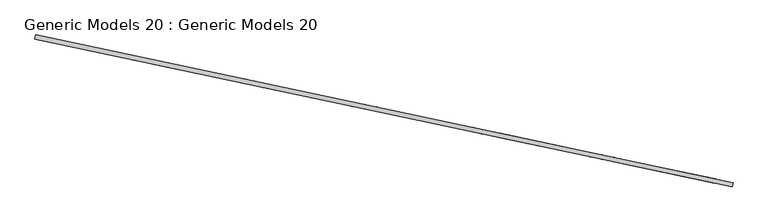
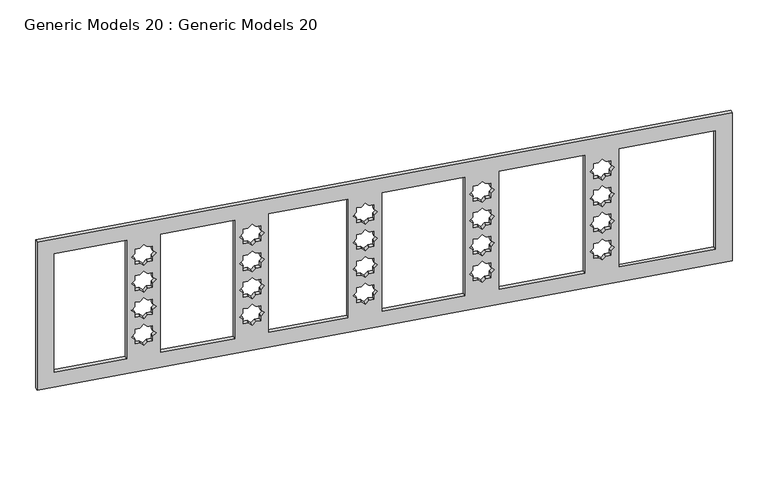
"""IFC4 building model written with IfcOpenShell, lengths in millimetres: proxy geometry, Generic Models 20 : Generic Models 20."""

from ifc_helpers import new_model, si_unit, frame, origin, place, context, project, spatial, polyline, outline, extrude, source, transform, mapped, element, save


def generic_models_20_generic_models_20_587b93e4(model_context):
    return source(origin(), model_context, "Body", "SweptSolid", [
        extrude(outline(polyline([(-1800.0, 0.0), (200.0, 0.0), (200.0, -8100.0), (-1800.0, -8100.0), (-1800.0, 0.0)]), holes=[polyline([(0.0, -1317.9363118), (0.0, -200.0), (-1600.0, -200.0), (-1600.0, -1317.9363118), (0.0, -1317.9363118)]), polyline([(-1600.0, -7900.0), (0.0, -7900.0), (0.0, -7057.9363118), (-1600.0, -7057.9363118), (-1600.0, -7900.0)]), polyline([(-1600.0, -1717.9363118), (-1600.0, -2717.9363119), (0.0, -2717.9363119), (0.0, -1717.9363118), (-1600.0, -1717.9363118)]), polyline([(-1600.0, -3117.9363118), (-1600.0, -4077.9363119), (0.0, -4077.9363119), (0.0, -3117.9363118), (-1600.0, -3117.9363118)]), polyline([(-1600.0, -4477.9363118), (-1600.0, -5397.9363118), (0.0, -5397.9363118), (0.0, -4477.9363118), (-1600.0, -4477.9363118)]), polyline([(-1600.0, -5797.9363118), (-1600.0, -6657.9363118), (0.0, -6657.9363118), (0.0, -5797.9363118), (-1600.0, -5797.9363118)]), polyline([(-140.462545, -1557.1139215), (-99.0411887, -1515.6925653), (-140.462545, -1474.2712091), (-140.462545, -1415.6925653), (-199.0411887, -1415.6925653), (-240.462545, -1374.2712091), (-281.8839012, -1415.6925653), (-340.462545, -1415.6925653), (-340.462545, -1474.2712091), (-381.8839012, -1515.6925653), (-340.462545, -1557.1139215), (-340.462545, -1615.6925653), (-281.8839012, -1615.6925653), (-240.462545, -1657.1139215), (-199.0411887, -1615.6925653), (-140.462545, -1615.6925653), (-140.462545, -1557.1139215)]), polyline([(-500.7866656, -1557.1139215), (-459.3653094, -1515.6925653), (-500.7866656, -1474.2712091), (-500.7866656, -1415.6925653), (-559.3653094, -1415.6925653), (-600.7866656, -1374.2712091), (-642.2080219, -1415.6925653), (-700.7866656, -1415.6925653), (-700.7866656, -1474.2712091), (-742.2080219, -1515.6925653), (-700.7866656, -1557.1139215), (-700.7866656, -1615.6925653), (-642.2080219, -1615.6925653), (-600.7866656, -1657.1139215), (-559.3653094, -1615.6925653), (-500.7866656, -1615.6925653), (-500.7866656, -1557.1139215)]), polyline([(-860.4268203, -1557.1139215), (-819.0054641, -1515.6925653), (-860.4268203, -1474.2712091), (-860.4268203, -1415.6925653), (-919.0054641, -1415.6925653), (-960.4268203, -1374.2712091), (-1001.8481765, -1415.6925653), (-1060.4268203, -1415.6925653), (-1060.4268203, -1474.2712091), (-1101.8481765, -1515.6925653), (-1060.4268203, -1557.1139215), (-1060.4268203, -1615.6925653), (-1001.8481765, -1615.6925653), (-960.4268203, -1657.1139215), (-919.0054641, -1615.6925653), (-860.4268203, -1615.6925653), (-860.4268203, -1557.1139215)]), polyline([(-1220.750941, -1557.1139215), (-1179.3295847, -1515.6925653), (-1220.750941, -1474.2712091), (-1220.750941, -1415.6925653), (-1279.3295847, -1415.6925653), (-1320.750941, -1374.2712091), (-1362.1722972, -1415.6925653), (-1420.750941, -1415.6925653), (-1420.750941, -1474.2712091), (-1462.1722972, -1515.6925653), (-1420.750941, -1557.1139215), (-1420.750941, -1615.6925653), (-1362.1722972, -1615.6925653), (-1320.750941, -1657.1139215), (-1279.3295847, -1615.6925653), (-1220.750941, -1615.6925653), (-1220.750941, -1557.1139215)]), polyline([(-140.462545, -2957.1139216), (-99.0411887, -2915.6925653), (-140.462545, -2874.2712091), (-140.462545, -2815.6925654), (-199.0411887, -2815.6925654), (-240.462545, -2774.2712091), (-281.8839012, -2815.6925654), (-340.462545, -2815.6925654), (-340.462545, -2874.2712091), (-381.8839012, -2915.6925653), (-340.462545, -2957.1139216), (-340.462545, -3015.6925653), (-281.8839012, -3015.6925653), (-240.462545, -3057.1139215), (-199.0411887, -3015.6925653), (-140.462545, -3015.6925653), (-140.462545, -2957.1139216)]), polyline([(-500.7866656, -2957.1139216), (-459.3653094, -2915.6925653), (-500.7866656, -2874.2712091), (-500.7866656, -2815.6925654), (-559.3653094, -2815.6925654), (-600.7866656, -2774.2712091), (-642.2080219, -2815.6925654), (-700.7866656, -2815.6925654), (-700.7866656, -2874.2712091), (-742.2080219, -2915.6925653), (-700.7866656, -2957.1139216), (-700.7866656, -3015.6925653), (-642.2080219, -3015.6925653), (-600.7866656, -3057.1139215), (-559.3653094, -3015.6925653), (-500.7866656, -3015.6925653), (-500.7866656, -2957.1139216)]), polyline([(-860.4268203, -2957.1139216), (-819.0054641, -2915.6925653), (-860.4268203, -2874.2712091), (-860.4268203, -2815.6925654), (-919.0054641, -2815.6925654), (-960.4268203, -2774.2712091), (-1001.8481765, -2815.6925654), (-1060.4268203, -2815.6925654), (-1060.4268203, -2874.2712091), (-1101.8481765, -2915.6925653), (-1060.4268203, -2957.1139216), (-1060.4268203, -3015.6925653), (-1001.8481765, -3015.6925653), (-960.4268203, -3057.1139215), (-919.0054641, -3015.6925653), (-860.4268203, -3015.6925653), (-860.4268203, -2957.1139216)]), polyline([(-1220.750941, -2957.1139216), (-1179.3295847, -2915.6925653), (-1220.750941, -2874.2712091), (-1220.750941, -2815.6925654), (-1279.3295847, -2815.6925654), (-1320.750941, -2774.2712091), (-1362.1722972, -2815.6925654), (-1420.750941, -2815.6925654), (-1420.750941, -2874.2712091), (-1462.1722972, -2915.6925653), (-1420.750941, -2957.1139216), (-1420.750941, -3015.6925653), (-1362.1722972, -3015.6925653), (-1320.750941, -3057.1139215), (-1279.3295847, -3015.6925653), (-1220.750941, -3015.6925653), (-1220.750941, -2957.1139216)]), polyline([(-140.462545, -4317.1139216), (-99.0411887, -4275.6925653), (-140.462545, -4234.2712091), (-140.462545, -4175.6925654), (-199.0411887, -4175.6925654), (-240.462545, -4134.271209), (-281.8839012, -4175.6925654), (-340.462545, -4175.6925654), (-340.462545, -4234.2712091), (-381.8839012, -4275.6925653), (-340.462545, -4317.1139216), (-340.462545, -4375.6925653), (-281.8839012, -4375.6925653), (-240.462545, -4417.1139215), (-199.0411887, -4375.6925653), (-140.462545, -4375.6925653), (-140.462545, -4317.1139216)]), polyline([(-500.7866656, -4317.1139216), (-459.3653094, -4275.6925653), (-500.7866656, -4234.2712091), (-500.7866656, -4175.6925654), (-559.3653094, -4175.6925654), (-600.7866656, -4134.271209), (-642.2080219, -4175.6925654), (-700.7866656, -4175.6925654), (-700.7866656, -4234.2712091), (-742.2080219, -4275.6925653), (-700.7866656, -4317.1139216), (-700.7866656, -4375.6925653), (-642.2080219, -4375.6925653), (-600.7866656, -4417.1139215), (-559.3653094, -4375.6925653), (-500.7866656, -4375.6925653), (-500.7866656, -4317.1139216)]), polyline([(-860.4268203, -4317.1139216), (-819.0054641, -4275.6925653), (-860.4268203, -4234.2712091), (-860.4268203, -4175.6925654), (-919.0054641, -4175.6925654), (-960.4268203, -4134.271209), (-1001.8481765, -4175.6925654), (-1060.4268203, -4175.6925654), (-1060.4268203, -4234.2712091), (-1101.8481765, -4275.6925653), (-1060.4268203, -4317.1139216), (-1060.4268203, -4375.6925653), (-1001.8481765, -4375.6925653), (-960.4268203, -4417.1139215), (-919.0054641, -4375.6925653), (-860.4268203, -4375.6925653), (-860.4268203, -4317.1139216)]), polyline([(-1220.750941, -4317.1139216), (-1179.3295847, -4275.6925653), (-1220.750941, -4234.2712091), (-1220.750941, -4175.6925654), (-1279.3295847, -4175.6925654), (-1320.750941, -4134.271209), (-1362.1722972, -4175.6925654), (-1420.750941, -4175.6925654), (-1420.750941, -4234.2712091), (-1462.1722972, -4275.6925653), (-1420.750941, -4317.1139216), (-1420.750941, -4375.6925653), (-1362.1722972, -4375.6925653), (-1320.750941, -4417.1139215), (-1279.3295847, -4375.6925653), (-1220.750941, -4375.6925653), (-1220.750941, -4317.1139216)]), polyline([(-140.462545, -5637.1139215), (-99.0411887, -5595.6925653), (-140.462545, -5554.2712091), (-140.462545, -5495.6925653), (-199.0411887, -5495.6925653), (-240.462545, -5454.2712091), (-281.8839012, -5495.6925653), (-340.462545, -5495.6925653), (-340.462545, -5554.2712091), (-381.8839012, -5595.6925653), (-340.462545, -5637.1139215), (-340.462545, -5695.6925653), (-281.8839012, -5695.6925653), (-240.462545, -5737.1139216), (-199.0411887, -5695.6925653), (-140.462545, -5695.6925653), (-140.462545, -5637.1139215)]), polyline([(-500.7866656, -5637.1139215), (-459.3653094, -5595.6925653), (-500.7866656, -5554.2712091), (-500.7866656, -5495.6925653), (-559.3653094, -5495.6925653), (-600.7866656, -5454.2712091), (-642.2080219, -5495.6925653), (-700.7866656, -5495.6925653), (-700.7866656, -5554.2712091), (-742.2080219, -5595.6925653), (-700.7866656, -5637.1139215), (-700.7866656, -5695.6925653), (-642.2080219, -5695.6925653), (-600.7866656, -5737.1139216), (-559.3653094, -5695.6925653), (-500.7866656, -5695.6925653), (-500.7866656, -5637.1139215)]), polyline([(-860.4268203, -5637.1139215), (-819.0054641, -5595.6925653), (-860.4268203, -5554.2712091), (-860.4268203, -5495.6925653), (-919.0054641, -5495.6925653), (-960.4268203, -5454.2712091), (-1001.8481765, -5495.6925653), (-1060.4268203, -5495.6925653), (-1060.4268203, -5554.2712091), (-1101.8481765, -5595.6925653), (-1060.4268203, -5637.1139215), (-1060.4268203, -5695.6925653), (-1001.8481765, -5695.6925653), (-960.4268203, -5737.1139216), (-919.0054641, -5695.6925653), (-860.4268203, -5695.6925653), (-860.4268203, -5637.1139215)]), polyline([(-1220.750941, -5637.1139215), (-1179.3295847, -5595.6925653), (-1220.750941, -5554.2712091), (-1220.750941, -5495.6925653), (-1279.3295847, -5495.6925653), (-1320.750941, -5454.2712091), (-1362.1722972, -5495.6925653), (-1420.750941, -5495.6925653), (-1420.750941, -5554.2712091), (-1462.1722972, -5595.6925653), (-1420.750941, -5637.1139215), (-1420.750941, -5695.6925653), (-1362.1722972, -5695.6925653), (-1320.750941, -5737.1139216), (-1279.3295847, -5695.6925653), (-1220.750941, -5695.6925653), (-1220.750941, -5637.1139215)]), polyline([(-140.462545, -6897.1139216), (-99.0411887, -6855.6925653), (-140.462545, -6814.2712091), (-140.462545, -6755.6925654), (-199.0411887, -6755.6925654), (-240.462545, -6714.271209), (-281.8839012, -6755.6925654), (-340.462545, -6755.6925654), (-340.462545, -6814.2712091), (-381.8839012, -6855.6925653), (-340.462545, -6897.1139216), (-340.462545, -6955.6925653), (-281.8839012, -6955.6925653), (-240.462545, -6997.1139215), (-199.0411887, -6955.6925653), (-140.462545, -6955.6925653), (-140.462545, -6897.1139216)]), polyline([(-500.7866656, -6897.1139216), (-459.3653094, -6855.6925653), (-500.7866656, -6814.2712091), (-500.7866656, -6755.6925654), (-559.3653094, -6755.6925654), (-600.7866656, -6714.271209), (-642.2080219, -6755.6925654), (-700.7866656, -6755.6925654), (-700.7866656, -6814.2712091), (-742.2080219, -6855.6925653), (-700.7866656, -6897.1139216), (-700.7866656, -6955.6925653), (-642.2080219, -6955.6925653), (-600.7866656, -6997.1139215), (-559.3653094, -6955.6925653), (-500.7866656, -6955.6925653), (-500.7866656, -6897.1139216)]), polyline([(-860.4268203, -6897.1139216), (-819.0054641, -6855.6925653), (-860.4268203, -6814.2712091), (-860.4268203, -6755.6925654), (-919.0054641, -6755.6925654), (-960.4268203, -6714.271209), (-1001.8481765, -6755.6925654), (-1060.4268203, -6755.6925654), (-1060.4268203, -6814.2712091), (-1101.8481765, -6855.6925653), (-1060.4268203, -6897.1139216), (-1060.4268203, -6955.6925653), (-1001.8481765, -6955.6925653), (-960.4268203, -6997.1139215), (-919.0054641, -6955.6925653), (-860.4268203, -6955.6925653), (-860.4268203, -6897.1139216)]), polyline([(-1220.750941, -6897.1139216), (-1179.3295847, -6855.6925653), (-1220.750941, -6814.2712091), (-1220.750941, -6755.6925654), (-1279.3295847, -6755.6925654), (-1320.750941, -6714.271209), (-1362.1722972, -6755.6925654), (-1420.750941, -6755.6925654), (-1420.750941, -6814.2712091), (-1462.1722972, -6855.6925653), (-1420.750941, -6897.1139216), (-1420.750941, -6955.6925653), (-1362.1722972, -6955.6925653), (-1320.750941, -6997.1139215), (-1279.3295847, -6955.6925653), (-1220.750941, -6955.6925653), (-1220.750941, -6897.1139216)])]), frame((459656.7393936, 14455.7978833, 2473.4612057), z_axis=(0.20791169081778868, 0.9781476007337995, 0.0), x_axis=(0.0, 0.0, 1.0)), (0.0, 0.0, 1.0), 48.968369),
    ])


if __name__ == "__main__":
    model = new_model("IFC4")
    model_context = context("Model", 3, world=origin())
    ifc_project = project(units=[si_unit("LENGTHUNIT", "METRE", prefix="MILLI")], contexts=[model_context])
    site = spatial("IfcSite", under=ifc_project)
    building = spatial("IfcBuilding", under=site)
    placement = place(None, origin())
    generic_models_20_generic_models_20_shape = generic_models_20_generic_models_20_587b93e4(model_context)
    element("IfcBuildingElementProxy", 1, Name="Generic Models 20 : Generic Models 20", ObjectType="Generic Models 20 : Generic Models 20", at=placement, inside=building, context=model_context, shape_type="MappedRepresentation", body=[
        mapped(generic_models_20_generic_models_20_shape, transform((0.0, 0.0, 0.0), x_axis=(1.0, 0.0, 0.0), y_axis=(0.0, 1.0, 0.0), z_axis=(0.0, 0.0, 1.0))),
    ])
    save(model, "model.ifc")
